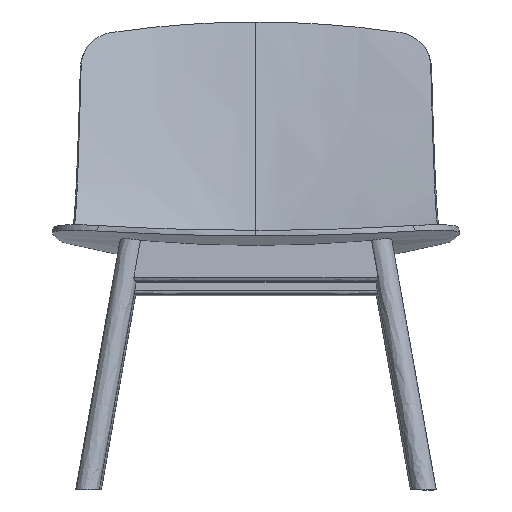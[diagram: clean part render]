
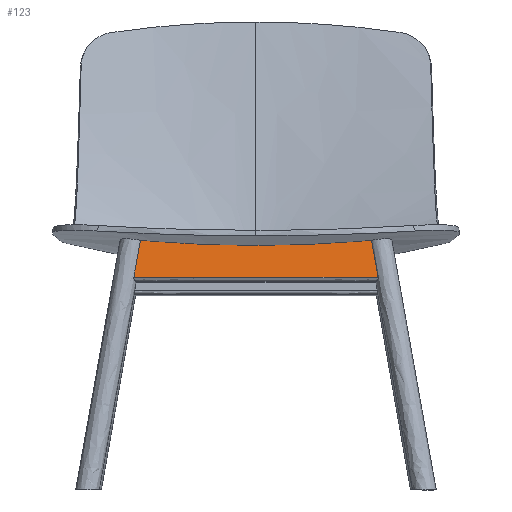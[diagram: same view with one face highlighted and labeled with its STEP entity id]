
A CAD part, front view. The second image highlights one B-rep face of the part: STEP entity #123.
In plain terms, the highlighted planar face has unit normal (0, -0.988, 0.157).
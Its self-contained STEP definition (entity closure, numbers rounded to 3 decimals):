
#14=PLANE('',#1123);
#123=ADVANCED_FACE('',(#191),#14,.T.);
#191=FACE_OUTER_BOUND('',#259,.T.);
#259=EDGE_LOOP('',(#438,#439,#440,#441,#442));
#438=ORIENTED_EDGE('',*,*,#667,.T.);
#439=ORIENTED_EDGE('',*,*,#668,.F.);
#440=ORIENTED_EDGE('',*,*,#669,.F.);
#441=ORIENTED_EDGE('',*,*,#670,.T.);
#442=ORIENTED_EDGE('',*,*,#671,.F.);
#667=EDGE_CURVE('',#826,#822,#1029,.T.);
#668=EDGE_CURVE('',#819,#822,#761,.T.);
#669=EDGE_CURVE('',#818,#819,#1030,.T.);
#670=EDGE_CURVE('',#818,#827,#1031,.T.);
#671=EDGE_CURVE('',#826,#827,#762,.T.);
#761=(
BOUNDED_CURVE()
B_SPLINE_CURVE(1,(#12205,#12206),.UNSPECIFIED.,.F.,.F.)
B_SPLINE_CURVE_WITH_KNOTS((2,2),(-783.821,-730.076),
 .UNSPECIFIED.)
CURVE()
GEOMETRIC_REPRESENTATION_ITEM()
RATIONAL_B_SPLINE_CURVE((1.,1.))
REPRESENTATION_ITEM('')
);
#762=(
BOUNDED_CURVE()
B_SPLINE_CURVE(1,(#12237,#12238),.UNSPECIFIED.,.F.,.F.)
B_SPLINE_CURVE_WITH_KNOTS((2,2),(730.076,783.821),
 .UNSPECIFIED.)
CURVE()
GEOMETRIC_REPRESENTATION_ITEM()
RATIONAL_B_SPLINE_CURVE((1.,1.))
REPRESENTATION_ITEM('')
);
#818=VERTEX_POINT('',#12155);
#819=VERTEX_POINT('',#12156);
#822=VERTEX_POINT('',#12159);
#826=VERTEX_POINT('',#12163);
#827=VERTEX_POINT('',#12164);
#1029=B_SPLINE_CURVE_WITH_KNOTS('',1,(#12203,#12204),.UNSPECIFIED.,.F.,
 .F.,(2,2),(0.878,348.675),.UNSPECIFIED.);
#1030=B_SPLINE_CURVE_WITH_KNOTS('',3,(#12207,#12208,#12209,#12210,#12211,
#12212,#12213,#12214,#12215,#12216,#12217,#12218,#12219,#12220,#12221),
 .UNSPECIFIED.,.F.,.F.,(4,3,2,3,3,4),(-177.168,-165.789,
-98.624,-31.615,-20.87,-12.344),
 .UNSPECIFIED.);
#1031=B_SPLINE_CURVE_WITH_KNOTS('',3,(#12222,#12223,#12224,#12225,#12226,
#12227,#12228,#12229,#12230,#12231,#12232,#12233,#12234,#12235,#12236),
 .UNSPECIFIED.,.F.,.F.,(4,3,2,3,3,4),(0.,11.379,78.544,
145.553,156.298,164.824),.UNSPECIFIED.);
#1123=AXIS2_PLACEMENT_3D('',#10804,#1145,$);
#1145=DIRECTION('',(0.,-0.988,0.157));
#10804=CARTESIAN_POINT('',(-184.598,-218.805,370.448));
#12155=CARTESIAN_POINT('',(2.665,-220.111,362.17));
#12156=CARTESIAN_POINT('',(167.273,-218.964,369.301));
#12159=CARTESIAN_POINT('',(176.564,-227.29,317.024));
#12163=CARTESIAN_POINT('',(-171.233,-227.313,317.024));
#12164=CARTESIAN_POINT('',(-161.943,-218.986,369.301));
#12203=CARTESIAN_POINT('',(-171.233,-227.313,317.024));
#12204=CARTESIAN_POINT('',(176.564,-227.29,317.024));
#12205=CARTESIAN_POINT('',(167.273,-218.964,369.301));
#12206=CARTESIAN_POINT('',(176.564,-227.29,317.024));
#12207=CARTESIAN_POINT('',(2.665,-220.111,362.17));
#12208=CARTESIAN_POINT('',(6.458,-220.11,362.17));
#12209=CARTESIAN_POINT('',(10.251,-220.108,362.181));
#12210=CARTESIAN_POINT('',(14.044,-220.104,362.205));
#12211=CARTESIAN_POINT('',(36.474,-220.081,362.341));
#12212=CARTESIAN_POINT('',(58.694,-219.993,362.882));
#12213=CARTESIAN_POINT('',(103.462,-219.69,364.766));
#12214=CARTESIAN_POINT('',(125.752,-219.477,366.096));
#12215=CARTESIAN_POINT('',(148.065,-219.208,367.773));
#12216=CARTESIAN_POINT('',(151.636,-219.165,368.041));
#12217=CARTESIAN_POINT('',(155.207,-219.121,368.318));
#12218=CARTESIAN_POINT('',(158.777,-219.075,368.604));
#12219=CARTESIAN_POINT('',(161.61,-219.039,368.831));
#12220=CARTESIAN_POINT('',(164.442,-219.002,369.063));
#12221=CARTESIAN_POINT('',(167.273,-218.964,369.301));
#12222=CARTESIAN_POINT('',(2.665,-220.111,362.17));
#12223=CARTESIAN_POINT('',(-1.128,-220.111,362.17));
#12224=CARTESIAN_POINT('',(-4.921,-220.109,362.181));
#12225=CARTESIAN_POINT('',(-8.714,-220.106,362.205));
#12226=CARTESIAN_POINT('',(-31.144,-220.086,362.341));
#12227=CARTESIAN_POINT('',(-53.364,-220.001,362.882));
#12228=CARTESIAN_POINT('',(-98.132,-219.704,364.766));
#12229=CARTESIAN_POINT('',(-120.422,-219.494,366.096));
#12230=CARTESIAN_POINT('',(-142.735,-219.228,367.773));
#12231=CARTESIAN_POINT('',(-146.306,-219.185,368.041));
#12232=CARTESIAN_POINT('',(-149.877,-219.141,368.318));
#12233=CARTESIAN_POINT('',(-153.447,-219.096,368.604));
#12234=CARTESIAN_POINT('',(-156.28,-219.06,368.831));
#12235=CARTESIAN_POINT('',(-159.112,-219.023,369.063));
#12236=CARTESIAN_POINT('',(-161.943,-218.986,369.301));
#12237=CARTESIAN_POINT('',(-171.233,-227.313,317.024));
#12238=CARTESIAN_POINT('',(-161.943,-218.986,369.301));
